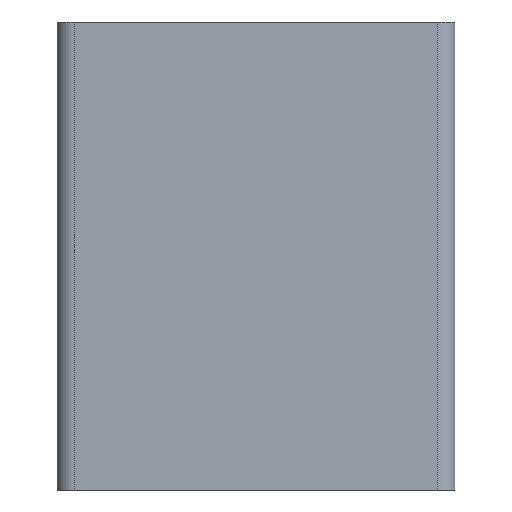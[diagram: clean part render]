
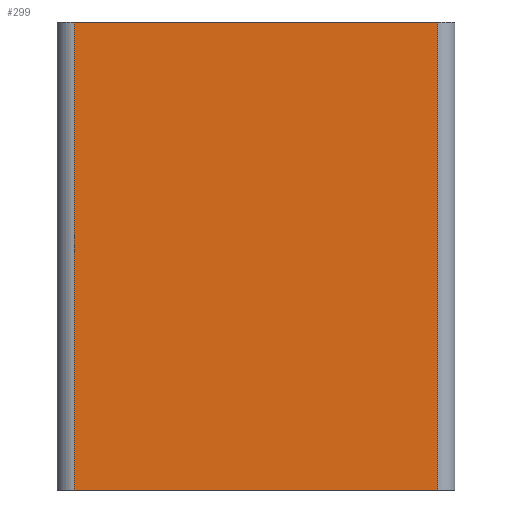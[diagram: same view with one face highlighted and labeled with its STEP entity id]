
A CAD part, front view. The second image highlights one B-rep face of the part: STEP entity #299.
In plain terms, the highlighted planar face has unit normal (0, -1, 0).
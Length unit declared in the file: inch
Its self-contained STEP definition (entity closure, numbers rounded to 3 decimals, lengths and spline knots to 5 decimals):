
#128 = VERTEX_POINT ( 'NONE', #691 ) ;
#173 = EDGE_CURVE ( 'NONE', #128, #231, #667, .T. ) ;
#231 = VERTEX_POINT ( 'NONE', #993 ) ;
#236 = EDGE_CURVE ( 'NONE', #263, #231, #983, .T. ) ;
#237 = ORIENTED_EDGE ( 'NONE', *, *, #262, .F. ) ;
#238 = ORIENTED_EDGE ( 'NONE', *, *, #296, .T. ) ;
#262 = EDGE_CURVE ( 'NONE', #285, #263, #877, .T. ) ;
#263 = VERTEX_POINT ( 'NONE', #873 ) ;
#285 = VERTEX_POINT ( 'NONE', #1035 ) ;
#296 = EDGE_CURVE ( 'NONE', #285, #128, #1024, .T. ) ;
#299 = ADVANCED_FACE ( 'NONE', ( #1020 ), #1019, .F. ) ;
#300 = EDGE_LOOP ( 'NONE', ( #301, #302, #237, #238 ) ) ;
#301 = ORIENTED_EDGE ( 'NONE', *, *, #173, .T. ) ;
#302 = ORIENTED_EDGE ( 'NONE', *, *, #236, .F. ) ;
#664 = DIRECTION ( 'NONE',  ( 1., 0., 0. ) ) ;
#665 = VECTOR ( 'NONE', #664, 39.37008 ) ;
#666 = CARTESIAN_POINT ( 'NONE',  ( -1.387, -0.0478, -1.6875 ) ) ;
#667 = LINE ( 'NONE', #666, #665 ) ;
#691 = CARTESIAN_POINT ( 'NONE',  ( -1.309, -0.0478, -1.6875 ) ) ;
#873 = CARTESIAN_POINT ( 'NONE',  ( 1.309, -0.0478, 1.6875 ) ) ;
#874 = DIRECTION ( 'NONE',  ( 1., 0., 0. ) ) ;
#875 = VECTOR ( 'NONE', #874, 39.37008 ) ;
#876 = CARTESIAN_POINT ( 'NONE',  ( -1.387, -0.0478, 1.6875 ) ) ;
#877 = LINE ( 'NONE', #876, #875 ) ;
#980 = DIRECTION ( 'NONE',  ( 0., 0., -1. ) ) ;
#981 = VECTOR ( 'NONE', #980, 39.37008 ) ;
#982 = CARTESIAN_POINT ( 'NONE',  ( 1.309, -0.0478, 1.6875 ) ) ;
#983 = LINE ( 'NONE', #982, #981 ) ;
#993 = CARTESIAN_POINT ( 'NONE',  ( 1.309, -0.0478, -1.6875 ) ) ;
#1015 = DIRECTION ( 'NONE',  ( -1., 0., 0. ) ) ;
#1016 = DIRECTION ( 'NONE',  ( 0., 1., 0. ) ) ;
#1017 = CARTESIAN_POINT ( 'NONE',  ( -1.387, -0.0478, 1.6875 ) ) ;
#1018 = AXIS2_PLACEMENT_3D ( 'NONE', #1017, #1016, #1015 ) ;
#1019 = PLANE ( 'NONE',  #1018 ) ;
#1020 = FACE_OUTER_BOUND ( 'NONE', #300, .T. ) ;
#1021 = DIRECTION ( 'NONE',  ( 0., 0., -1. ) ) ;
#1022 = VECTOR ( 'NONE', #1021, 39.37008 ) ;
#1023 = CARTESIAN_POINT ( 'NONE',  ( -1.309, -0.0478, 1.6875 ) ) ;
#1024 = LINE ( 'NONE', #1023, #1022 ) ;
#1035 = CARTESIAN_POINT ( 'NONE',  ( -1.309, -0.0478, 1.6875 ) ) ;
